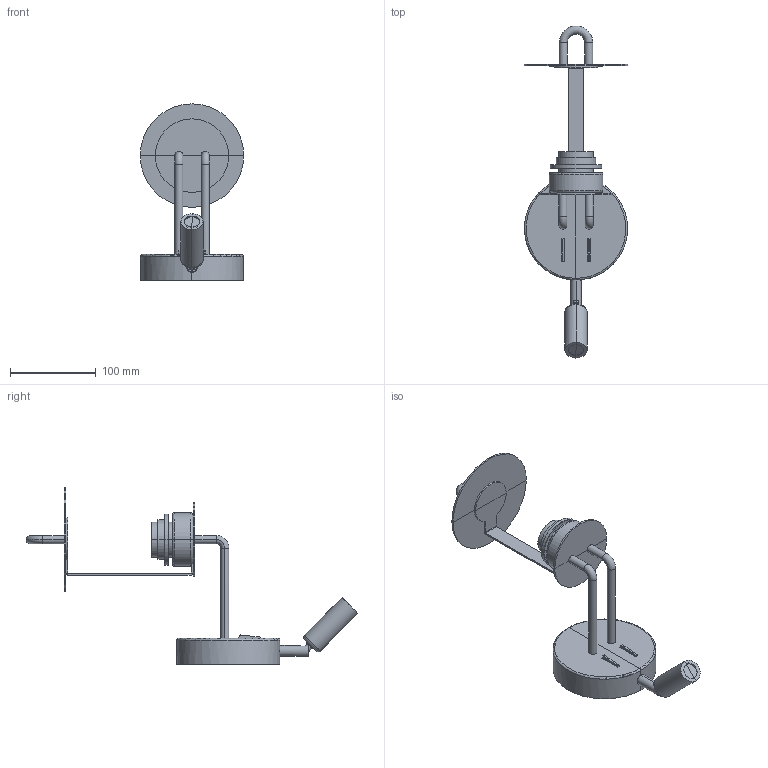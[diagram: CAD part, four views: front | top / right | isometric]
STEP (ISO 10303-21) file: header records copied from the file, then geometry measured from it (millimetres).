
FILE_DESCRIPTION(/* description */ (''),/* implementation_level */ '2;1');
FILE_NAME(/* name */ 'C:\Users\francosartori\Documents\Modelos\01_Digitalizados\0_MONTREAL\03_Publicación\24032.stp',/* time_stamp */ '2020-06-10T15:56:17+02:00',/* author */ ('FrancoSartori'),/* organization */ (''),/* preprocessor_version */ 'ST-DEVELOPER v18.1',/* originating_system */ 'AutoCAD Mechanical',/* authorisation */ '');
FILE_SCHEMA (('AUTOMOTIVE_DESIGN { 1 0 10303 214 3 1 1 }'));
Length unit declared in the file: millimetre
Products named in the file (2): Product; 24032_24033_MONTREAL - MONTREAL-445859-Export
Assembly tree (1 placements, depth 2):
  Product
    24032_24033_MONTREAL - MONTREAL-445859-Export
Bounding box: 120.54 x 386.35 x 205.28 mm (x, y, z)
Volume: 171386.9 mm3; surface area: 150264.3 mm2
Topology: 12 solids, 14 shells, 230 faces, 505 edges, 293 vertices
Faces by surface type: plane 114, cylinder 80, torus 28, bspline 4, cone 4
Entity records: 7749 total; most frequent: CARTESIAN_POINT 2798, DIRECTION 1001, ORIENTED_EDGE 990, EDGE_CURVE 503, AXIS2_PLACEMENT_3D 372, VERTEX_POINT 293, LINE 257, VECTOR 257
